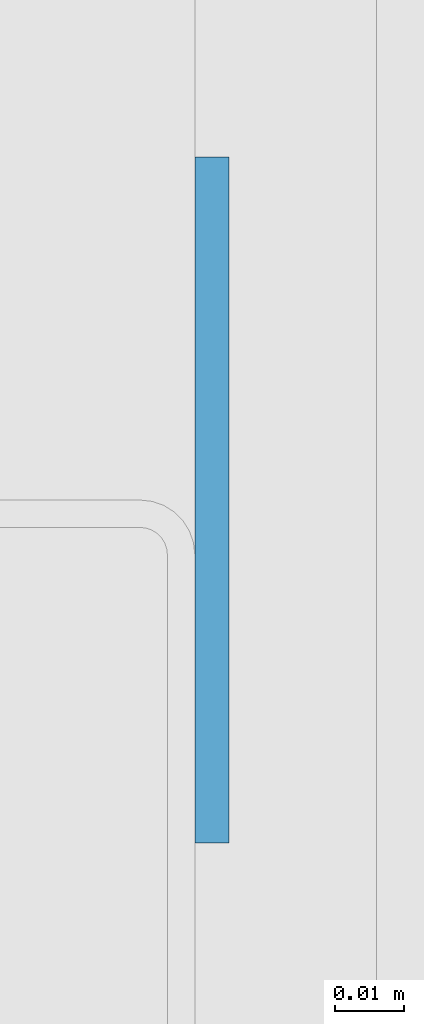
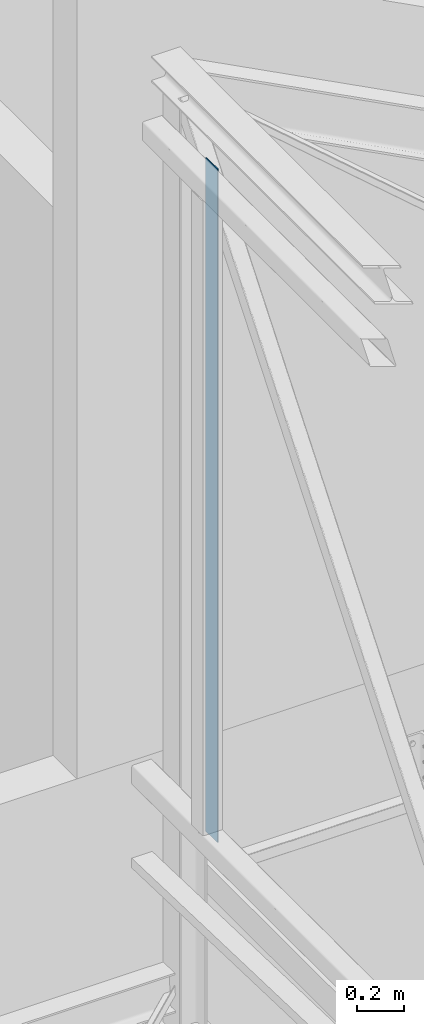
# One storey, part 52 of 123: 1 discrete accessory, 1 element without a shape of its own.
"""IFC2X3 building model written with IfcOpenShell, lengths in millimetres."""

from ifc_helpers import new_model, si_unit, frame, origin_with_axes, place, context, subcontext, project, spatial, polyline, outline, extrude, material, type_object, element, aggregate, save


model = new_model("IFC2X3")

# Units and contexts
model_context = context("Model", 3, precision=1e-05, world=origin_with_axes())
body_context = subcontext(model_context, "Body", "Model", "MODEL_VIEW")
ifc_project = project(units=[si_unit("LENGTHUNIT", "METRE", prefix="MILLI"), si_unit("AREAUNIT", "SQUARE_METRE"), si_unit("VOLUMEUNIT", "CUBIC_METRE"), si_unit("MASSUNIT", "GRAM", prefix="KILO"), si_unit("TIMEUNIT", "SECOND"), si_unit("PLANEANGLEUNIT", "RADIAN"), si_unit("SOLIDANGLEUNIT", "STERADIAN"), si_unit("THERMODYNAMICTEMPERATUREUNIT", "DEGREE_CELSIUS"), si_unit("LUMINOUSINTENSITYUNIT", "LUMEN")], contexts=[model_context])

# Site, building, storey
site_placement = place(None, origin_with_axes())
site = spatial("IfcSite", under=ifc_project, at=site_placement, Name="Undefined", CompositionType="ELEMENT")
building_placement = place(site_placement, origin_with_axes())
building = spatial("IfcBuilding", under=site, at=building_placement, Name="Undefined", CompositionType="ELEMENT")
storey_placement = place(building_placement, origin_with_axes())
storey = spatial("IfcBuildingStorey", under=building, at=storey_placement, Name="Undefined", CompositionType="ELEMENT", Elevation=0.0)

# Assembly, discrete accessory
assembly_placement = place(storey_placement, origin_with_axes())
assembly = element("IfcElementAssembly", 1, at=assembly_placement, inside=storey, Name="Steel Assembly", AssemblyPlace="NOTDEFINED", PredefinedType="RIGID_FRAME")
ifc_material = material(Name="STEEL/S235-E24")
discrete_accessory_type = type_object("IfcDiscreteAccessoryType", Name="FEUILLURE")
discrete_accessory_placement = place(assembly_placement, frame((12616.0000013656, 14859.9999987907, 8450.0), z_axis=(-1.0, 0.0, 0.0), x_axis=(0.0, 0.0, 1.0)))
discrete_accessory = element("IfcDiscreteAccessory", 2, at=discrete_accessory_placement, type_object=discrete_accessory_type, material=ifc_material, Name="FEUILLURE", ObjectType="PL100*5", context=body_context, shape_type="SweptSolid", body=[
    extrude(outline(polyline([(0.0, -50.0), (0.0, 50.0), (3470.0, 50.0), (3470.0, -50.0), (0.0, -50.0)])), frame((0.0, 0.0, -2.5), z_axis=(0.0, 0.0, 1.0), x_axis=(1.0, 0.0, 0.0)), (0.0, 0.0, 1.0), 5.0),
])
aggregate(assembly, [discrete_accessory])

save(model, "model.ifc")
